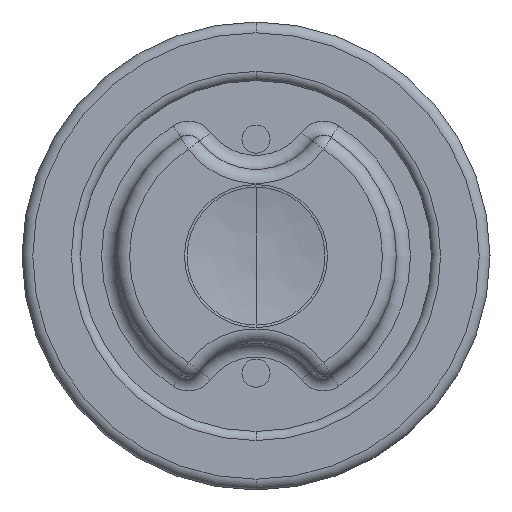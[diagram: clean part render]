
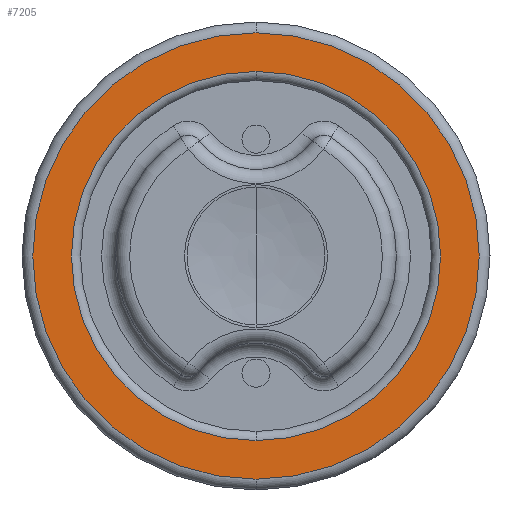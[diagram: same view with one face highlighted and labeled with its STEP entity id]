
A CAD part, left-side view. The second image highlights one B-rep face of the part: STEP entity #7205.
In plain terms, the highlighted planar face has unit normal (-1, 0, 0).
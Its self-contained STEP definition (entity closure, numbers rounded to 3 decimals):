
#2=CARTESIAN_POINT('',(-12.,0.,0.002));
#3=DIRECTION('',(1.,0.,0.));
#4=DIRECTION('',(0.,0.,-1.));
#5=AXIS2_PLACEMENT_3D('',#2,#3,#4);
#17=CARTESIAN_POINT('',(-12.,0.,0.002));
#18=DIRECTION('',(-1.,0.,0.));
#19=DIRECTION('',(0.,0.,-1.));
#20=AXIS2_PLACEMENT_3D('',#17,#18,#19);
#398=CARTESIAN_POINT('',(-12.,0.,0.002));
#399=DIRECTION('',(-1.,0.,0.));
#400=DIRECTION('',(0.,0.,1.));
#401=AXIS2_PLACEMENT_3D('',#398,#399,#400);
#403=CARTESIAN_POINT('',(-12.,0.,0.002));
#404=DIRECTION('',(-1.,0.,0.));
#405=DIRECTION('',(0.,0.,-1.));
#406=AXIS2_PLACEMENT_3D('',#403,#404,#405);
#4980=CARTESIAN_POINT('',(-12.,0.,-3.942));
#4982=VERTEX_POINT('',#4980);
#4984=CARTESIAN_POINT('',(-12.,0.,3.945));
#4986=VERTEX_POINT('',#4984);
#5004=CARTESIAN_POINT('',(-12.,0.,4.772));
#5005=CARTESIAN_POINT('',(-12.,0.,-4.768));
#5006=VERTEX_POINT('',#5004);
#5007=VERTEX_POINT('',#5005);
#7190=CARTESIAN_POINT('',(-12.,0.,0.002));
#7191=DIRECTION('',(1.,0.,0.));
#7192=DIRECTION('',(0.,0.,1.));
#7193=AXIS2_PLACEMENT_3D('',#7190,#7191,#7192);
#7194=PLANE('',#7193);
#7196=ORIENTED_EDGE('',*,*,#7195,.F.);
#7198=ORIENTED_EDGE('',*,*,#7197,.F.);
#7199=EDGE_LOOP('',(#7196,#7198));
#7200=FACE_OUTER_BOUND('',#7199,.F.);
#7201=ORIENTED_EDGE('',*,*,#6595,.T.);
#7202=ORIENTED_EDGE('',*,*,#6577,.F.);
#7203=EDGE_LOOP('',(#7201,#7202));
#7204=FACE_BOUND('',#7203,.F.);
#7205=ADVANCED_FACE('',(#7200,#7204),#7194,.F.);
#6=CIRCLE('',#5,3.944);
#21=CIRCLE('',#20,3.944);
#402=CIRCLE('',#401,4.77);
#407=CIRCLE('',#406,4.77);
#6577=EDGE_CURVE('',#4982,#4986,#6,.T.);
#6595=EDGE_CURVE('',#4982,#4986,#21,.T.);
#7195=EDGE_CURVE('',#5006,#5007,#402,.T.);
#7197=EDGE_CURVE('',#5007,#5006,#407,.T.);
